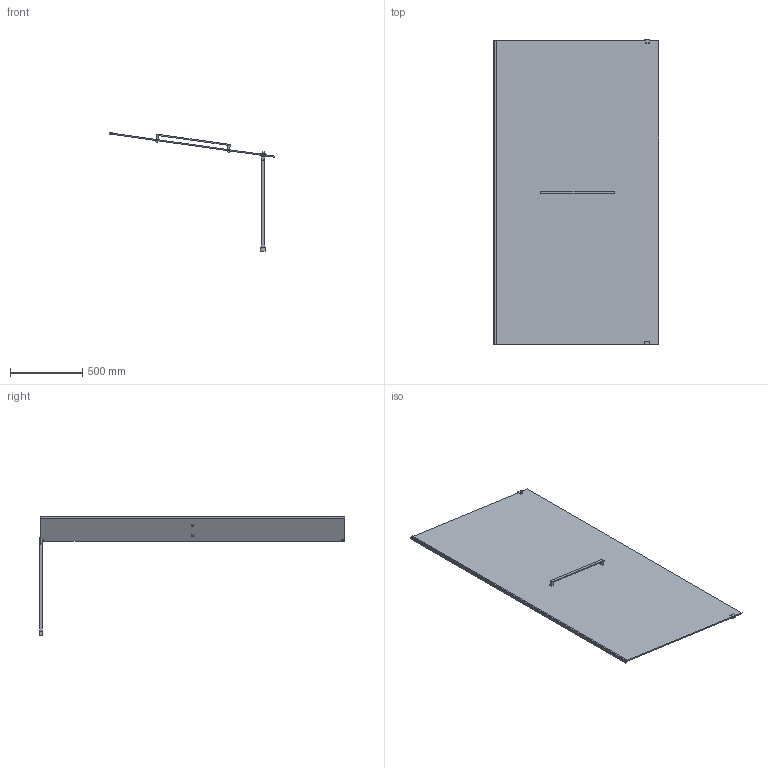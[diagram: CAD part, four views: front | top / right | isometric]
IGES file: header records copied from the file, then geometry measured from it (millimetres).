
Start section: SolidWorks IGES file using analytic representation for surfaces
Global section: file name: D:\Users\M.Szymanski\Desktop\Kabiny\PT\03. do przegrania\PT_ALTIIa_120_z_relingiem_K3D.IGS; native system: SolidWorks 2011; preprocessor: SolidWorks 2011; author: M.Szymanski; date: 181004.121737; units: millimetre
Bounding box: 1146.95 x 2115 x 823.54 mm (x, y, z)
Surface area: 5182718.3 mm2 (no closed solid volume)
Topology: 0 solids, 0 shells, 76 faces, 567 edges, 756 vertices
Faces by surface type: bspline 70, revolution 6
